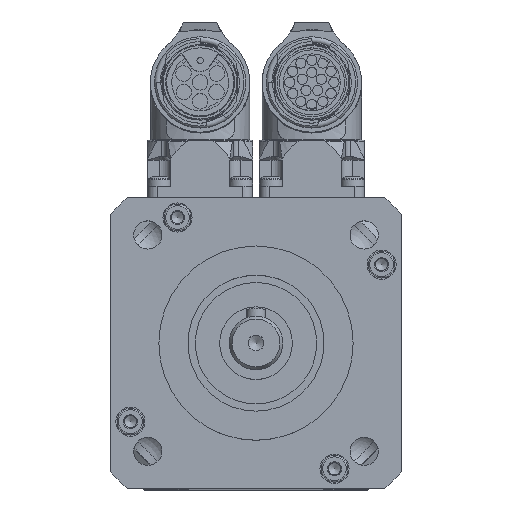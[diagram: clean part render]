
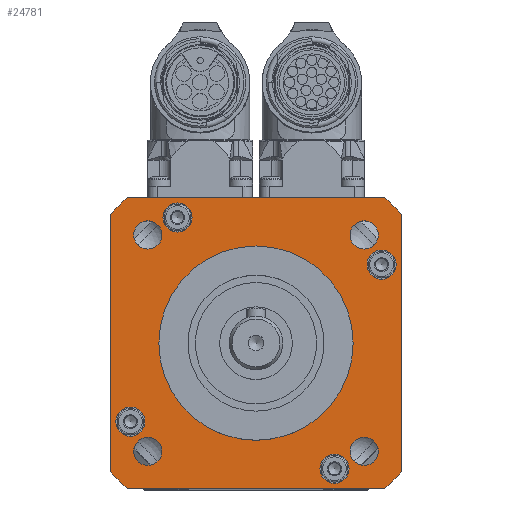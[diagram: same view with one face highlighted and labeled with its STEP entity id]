
A CAD part, top view. The second image highlights one B-rep face of the part: STEP entity #24781.
In plain terms, the highlighted planar face has unit normal (0, 0, 1).
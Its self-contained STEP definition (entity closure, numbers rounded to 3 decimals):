
#2514=LINE('',#37484,#3968);
#2518=LINE('',#37496,#3972);
#2522=LINE('',#37508,#3976);
#2526=LINE('',#37519,#3980);
#3968=VECTOR('',#30277,52.915);
#3972=VECTOR('',#30289,52.915);
#3976=VECTOR('',#30301,52.915);
#3980=VECTOR('',#30313,52.915);
#5720=PLANE('',#26617);
#6346=FACE_BOUND('',#8658,.T.);
#6347=FACE_BOUND('',#8659,.T.);
#6348=FACE_BOUND('',#8660,.T.);
#6349=FACE_BOUND('',#8661,.T.);
#6350=FACE_BOUND('',#8662,.T.);
#6351=FACE_BOUND('',#8663,.T.);
#6352=FACE_BOUND('',#8664,.T.);
#6353=FACE_BOUND('',#8665,.T.);
#6354=FACE_BOUND('',#8666,.T.);
#6355=FACE_BOUND('',#8667,.T.);
#8658=EDGE_LOOP('',(#18471));
#8659=EDGE_LOOP('',(#18472));
#8660=EDGE_LOOP('',(#18473));
#8661=EDGE_LOOP('',(#18474));
#8662=EDGE_LOOP('',(#18475));
#8663=EDGE_LOOP('',(#18476));
#8664=EDGE_LOOP('',(#18477));
#8665=EDGE_LOOP('',(#18478));
#8666=EDGE_LOOP('',(#18479));
#8667=EDGE_LOOP('',(#18480,#18481,#18482,#18483,#18484,#18485,#18486,#18487));
#10241=CIRCLE('',#26557,3.);
#10245=CIRCLE('',#26564,3.);
#10249=CIRCLE('',#26571,3.);
#10253=CIRCLE('',#26578,3.);
#10256=CIRCLE('',#26583,2.9);
#10258=CIRCLE('',#26586,2.9);
#10260=CIRCLE('',#26589,2.9);
#10262=CIRCLE('',#26592,2.9);
#10266=CIRCLE('',#26599,20.);
#10267=CIRCLE('',#26602,40.);
#10269=CIRCLE('',#26606,40.);
#10271=CIRCLE('',#26610,40.);
#10273=CIRCLE('',#26614,40.);
#11604=VERTEX_POINT('',#37403);
#11608=VERTEX_POINT('',#37414);
#11612=VERTEX_POINT('',#37425);
#11616=VERTEX_POINT('',#37436);
#11619=VERTEX_POINT('',#37444);
#11621=VERTEX_POINT('',#37449);
#11623=VERTEX_POINT('',#37454);
#11625=VERTEX_POINT('',#37459);
#11629=VERTEX_POINT('',#37470);
#11630=VERTEX_POINT('',#37474);
#11631=VERTEX_POINT('',#37475);
#11634=VERTEX_POINT('',#37483);
#11636=VERTEX_POINT('',#37489);
#11638=VERTEX_POINT('',#37495);
#11640=VERTEX_POINT('',#37501);
#11642=VERTEX_POINT('',#37507);
#11644=VERTEX_POINT('',#37513);
#14203=EDGE_CURVE('',#11604,#11604,#10241,.T.);
#14207=EDGE_CURVE('',#11608,#11608,#10245,.T.);
#14211=EDGE_CURVE('',#11612,#11612,#10249,.T.);
#14215=EDGE_CURVE('',#11616,#11616,#10253,.T.);
#14218=EDGE_CURVE('',#11619,#11619,#10256,.T.);
#14220=EDGE_CURVE('',#11621,#11621,#10258,.T.);
#14222=EDGE_CURVE('',#11623,#11623,#10260,.T.);
#14224=EDGE_CURVE('',#11625,#11625,#10262,.T.);
#14228=EDGE_CURVE('',#11629,#11629,#10266,.T.);
#14229=EDGE_CURVE('',#11630,#11631,#10267,.T.);
#14233=EDGE_CURVE('',#11631,#11634,#2514,.T.);
#14236=EDGE_CURVE('',#11634,#11636,#10269,.T.);
#14239=EDGE_CURVE('',#11636,#11638,#2518,.T.);
#14242=EDGE_CURVE('',#11638,#11640,#10271,.T.);
#14245=EDGE_CURVE('',#11640,#11642,#2522,.T.);
#14248=EDGE_CURVE('',#11642,#11644,#10273,.T.);
#14251=EDGE_CURVE('',#11644,#11630,#2526,.T.);
#18471=ORIENTED_EDGE('',*,*,#14203,.T.);
#18472=ORIENTED_EDGE('',*,*,#14207,.T.);
#18473=ORIENTED_EDGE('',*,*,#14211,.T.);
#18474=ORIENTED_EDGE('',*,*,#14215,.T.);
#18475=ORIENTED_EDGE('',*,*,#14218,.T.);
#18476=ORIENTED_EDGE('',*,*,#14220,.T.);
#18477=ORIENTED_EDGE('',*,*,#14222,.T.);
#18478=ORIENTED_EDGE('',*,*,#14224,.T.);
#18479=ORIENTED_EDGE('',*,*,#14228,.T.);
#18480=ORIENTED_EDGE('',*,*,#14251,.T.);
#18481=ORIENTED_EDGE('',*,*,#14229,.T.);
#18482=ORIENTED_EDGE('',*,*,#14233,.T.);
#18483=ORIENTED_EDGE('',*,*,#14236,.T.);
#18484=ORIENTED_EDGE('',*,*,#14239,.T.);
#18485=ORIENTED_EDGE('',*,*,#14242,.T.);
#18486=ORIENTED_EDGE('',*,*,#14245,.T.);
#18487=ORIENTED_EDGE('',*,*,#14248,.T.);
#24781=ADVANCED_FACE('',(#6346,#6347,#6348,#6349,#6350,#6351,#6352,#6353,
#6354,#6355),#5720,.T.);
#26557=AXIS2_PLACEMENT_3D('',#37404,#30179,#30180);
#26564=AXIS2_PLACEMENT_3D('',#37415,#30193,#30194);
#26571=AXIS2_PLACEMENT_3D('',#37426,#30207,#30208);
#26578=AXIS2_PLACEMENT_3D('',#37437,#30221,#30222);
#26583=AXIS2_PLACEMENT_3D('',#37445,#30231,#30232);
#26586=AXIS2_PLACEMENT_3D('',#37450,#30237,#30238);
#26589=AXIS2_PLACEMENT_3D('',#37455,#30243,#30244);
#26592=AXIS2_PLACEMENT_3D('',#37460,#30249,#30250);
#26599=AXIS2_PLACEMENT_3D('',#37471,#30263,#30264);
#26602=AXIS2_PLACEMENT_3D('',#37476,#30269,#30270);
#26606=AXIS2_PLACEMENT_3D('',#37490,#30282,#30283);
#26610=AXIS2_PLACEMENT_3D('',#37502,#30294,#30295);
#26614=AXIS2_PLACEMENT_3D('',#37514,#30306,#30307);
#26617=AXIS2_PLACEMENT_3D('',#37521,#30315,#30316);
#30179=DIRECTION('center_axis',(0.,0.,-1.));
#30180=DIRECTION('ref_axis',(0.,-1.,0.));
#30193=DIRECTION('center_axis',(0.,0.,-1.));
#30194=DIRECTION('ref_axis',(-1.,0.,0.));
#30207=DIRECTION('center_axis',(0.,0.,-1.));
#30208=DIRECTION('ref_axis',(0.,1.,0.));
#30221=DIRECTION('center_axis',(0.,0.,-1.));
#30222=DIRECTION('ref_axis',(1.,0.,0.));
#30231=DIRECTION('center_axis',(0.,0.,-1.));
#30232=DIRECTION('ref_axis',(0.,-1.,0.));
#30237=DIRECTION('center_axis',(0.,0.,-1.));
#30238=DIRECTION('ref_axis',(-1.,0.,0.));
#30243=DIRECTION('center_axis',(0.,0.,-1.));
#30244=DIRECTION('ref_axis',(0.,1.,0.));
#30249=DIRECTION('center_axis',(0.,0.,-1.));
#30250=DIRECTION('ref_axis',(1.,0.,0.));
#30263=DIRECTION('center_axis',(0.,0.,-1.));
#30264=DIRECTION('ref_axis',(-1.,0.,0.));
#30269=DIRECTION('center_axis',(0.,0.,1.));
#30270=DIRECTION('ref_axis',(-0.661,0.75,0.));
#30277=DIRECTION('',(0.,-1.,0.));
#30282=DIRECTION('center_axis',(0.,0.,1.));
#30283=DIRECTION('ref_axis',(-0.75,-0.661,0.));
#30289=DIRECTION('',(1.,0.,0.));
#30294=DIRECTION('center_axis',(0.,0.,1.));
#30295=DIRECTION('ref_axis',(-0.661,-0.75,0.));
#30301=DIRECTION('',(0.,1.,0.));
#30306=DIRECTION('center_axis',(0.,0.,1.));
#30307=DIRECTION('ref_axis',(0.75,0.661,0.));
#30313=DIRECTION('',(-1.,0.,0.));
#30315=DIRECTION('center_axis',(0.,0.,1.));
#30316=DIRECTION('ref_axis',(1.,0.,0.));
#37403=CARTESIAN_POINT('',(16.163,-28.865,8.));
#37404=CARTESIAN_POINT('Origin',(16.163,-25.865,8.));
#37414=CARTESIAN_POINT('',(-28.865,-16.163,8.));
#37415=CARTESIAN_POINT('Origin',(-25.865,-16.163,8.));
#37425=CARTESIAN_POINT('',(-16.163,28.865,8.));
#37426=CARTESIAN_POINT('Origin',(-16.163,25.865,8.));
#37436=CARTESIAN_POINT('',(28.865,16.163,8.));
#37437=CARTESIAN_POINT('Origin',(25.865,16.163,8.));
#37444=CARTESIAN_POINT('',(22.274,-25.174,8.));
#37445=CARTESIAN_POINT('Origin',(22.274,-22.274,8.));
#37449=CARTESIAN_POINT('',(-25.174,-22.274,8.));
#37450=CARTESIAN_POINT('Origin',(-22.274,-22.274,8.));
#37454=CARTESIAN_POINT('',(-22.274,25.174,8.));
#37455=CARTESIAN_POINT('Origin',(-22.274,22.274,8.));
#37459=CARTESIAN_POINT('',(25.174,22.274,8.));
#37460=CARTESIAN_POINT('Origin',(22.274,22.274,8.));
#37470=CARTESIAN_POINT('',(20.,0.,8.));
#37471=CARTESIAN_POINT('Origin',(0.,0.,8.));
#37474=CARTESIAN_POINT('',(-26.458,30.,8.));
#37475=CARTESIAN_POINT('',(-30.,26.458,8.));
#37476=CARTESIAN_POINT('Origin',(0.,0.,8.));
#37483=CARTESIAN_POINT('',(-30.,-26.458,8.));
#37484=CARTESIAN_POINT('',(-30.,26.458,8.));
#37489=CARTESIAN_POINT('',(-26.458,-30.,8.));
#37490=CARTESIAN_POINT('Origin',(0.,0.,8.));
#37495=CARTESIAN_POINT('',(26.458,-30.,8.));
#37496=CARTESIAN_POINT('',(-26.458,-30.,8.));
#37501=CARTESIAN_POINT('',(30.,-26.458,8.));
#37502=CARTESIAN_POINT('Origin',(0.,0.,8.));
#37507=CARTESIAN_POINT('',(30.,26.458,8.));
#37508=CARTESIAN_POINT('',(30.,-26.458,8.));
#37513=CARTESIAN_POINT('',(26.458,30.,8.));
#37514=CARTESIAN_POINT('Origin',(0.,0.,8.));
#37519=CARTESIAN_POINT('',(26.458,30.,8.));
#37521=CARTESIAN_POINT('Origin',(0.,0.,
8.));
